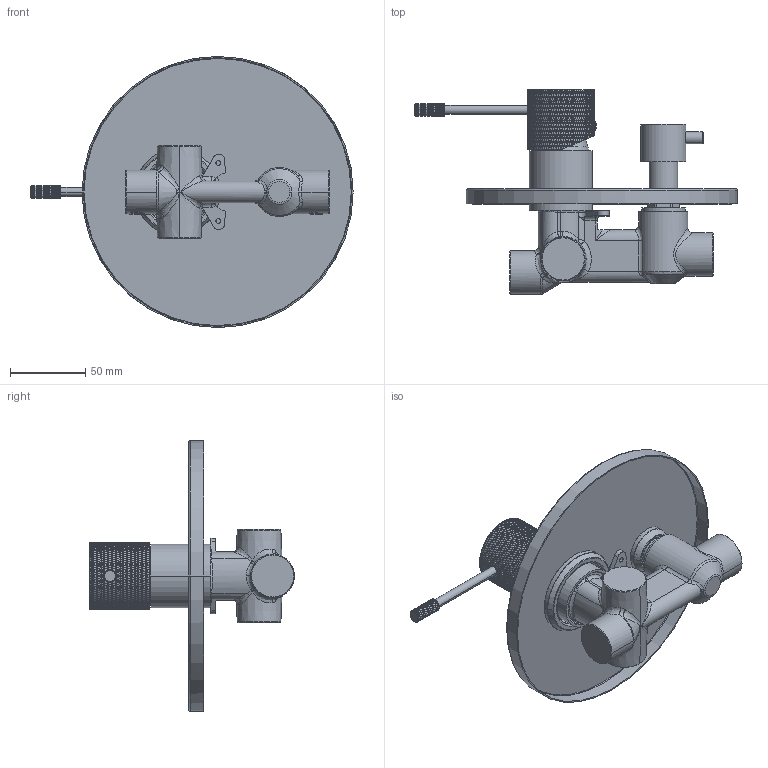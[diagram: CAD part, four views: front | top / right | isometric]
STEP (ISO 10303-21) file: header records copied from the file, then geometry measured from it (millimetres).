
FILE_DESCRIPTION((''),'2;1');
FILE_NAME('65508200-314_ASM_ASM','2021-10-13T',('RD001'),(''),'PRO/ENGINEER BY PARAMETRIC TECHNOLOGY CORPORATION, 2011310','PRO/ENGINEER BY PARAMETRIC TECHNOLOGY CORPORATION, 2011310','');
FILE_SCHEMA(('CONFIG_CONTROL_DESIGN'));
Products named in the file (26): 513811-0122_1; 513812-0200_1; 61812000_1; 7609314-0100_1; 7609314-0200_1; 7609314-0300_1; 60931400_ASM_1_ASM; 513811-0322_1; 61812700_1; MANIFOLD_SOLID_BREP_403764; MANIFOLD_SOLID_BREP_404006; MANIFOLD_SOLID_BREP_404242; MANIFOLD_SOLID_BREP_404480; 60700544_1_ASM; 513822-0300_1; 609072-0100_1; 61102812_1; 609072-0300_1; 60907200_ASM_1_ASM; 61809800_1; 61610942_1; 61609942_1; 61809800_ASM_1_ASM; 61516942_1; 65508200-314_ASM_1_ASM; 65508200-314_ASM_ASM
Assembly tree (25 placements, depth 4):
  65508200-314_ASM_ASM
    65508200-314_ASM_1_ASM
      513811-0122_1
      513812-0200_1
      61812000_1
      60931400_ASM_1_ASM
        7609314-0100_1
        7609314-0200_1
        7609314-0300_1
      513811-0322_1
      61812700_1
      60700544_1_ASM
        MANIFOLD_SOLID_BREP_403764
        MANIFOLD_SOLID_BREP_404006
        MANIFOLD_SOLID_BREP_404242
        MANIFOLD_SOLID_BREP_404480
      513822-0300_1
      60907200_ASM_1_ASM
        609072-0100_1
        61102812_1
        609072-0300_1
      61809800_ASM_1_ASM
        61809800_1
        61610942_1
        61609942_1
      61516942_1
Bounding box: 214 x 136 x 180 mm (x, y, z)
Volume: 241949.3 mm3; surface area: 145105.1 mm2
Topology: 20 solids, 22 shells, 8667 faces, 18711 edges, 10119 vertices
Faces by surface type: bspline 6075, cylinder 1834, plane 518, cone 157, torus 53, extrusion 16, revolution 12, sphere 2
Entity records: 348470 total; most frequent: CARTESIAN_POINT 214481, ORIENTED_EDGE 37386, EDGE_CURVE 18693, B_SPLINE_CURVE_WITH_KNOTS 16410, VERTEX_POINT 10119, DIRECTION 8860, EDGE_LOOP 8754, FACE_OUTER_BOUND 8667
